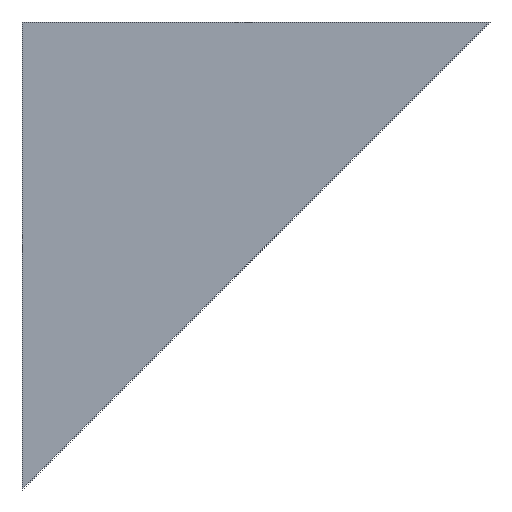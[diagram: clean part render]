
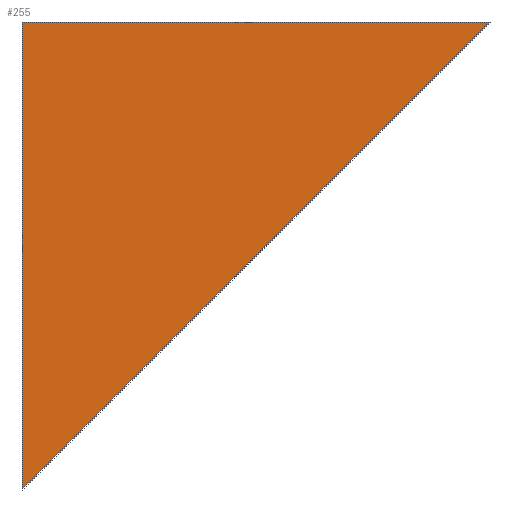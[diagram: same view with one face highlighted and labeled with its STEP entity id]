
A CAD part, left-side view. The second image highlights one B-rep face of the part: STEP entity #255.
In plain terms, the highlighted planar face has unit normal (-1, 0, 0).
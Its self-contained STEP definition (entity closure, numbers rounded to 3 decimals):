
#24 = VERTEX_POINT('',#25);
#25 = CARTESIAN_POINT('',(-2.,-7.5,145.));
#32 = PLANE('',#33);
#33 = AXIS2_PLACEMENT_3D('',#34,#35,#36);
#34 = CARTESIAN_POINT('',(-2.,-7.5,145.));
#35 = DIRECTION('',(0.,0.,1.));
#36 = DIRECTION('',(0.,1.,0.));
#44 = PLANE('',#45);
#45 = AXIS2_PLACEMENT_3D('',#46,#47,#48);
#46 = CARTESIAN_POINT('',(-2.,12.5,125.));
#47 = DIRECTION('',(0.,-0.707,-0.707));
#48 = DIRECTION('',(0.,-0.707,0.707));
#85 = VERTEX_POINT('',#86);
#86 = CARTESIAN_POINT('',(-2.,12.5,145.));
#100 = PLANE('',#101);
#101 = AXIS2_PLACEMENT_3D('',#102,#103,#104);
#102 = CARTESIAN_POINT('',(-2.,12.5,145.));
#103 = DIRECTION('',(0.,1.,0.));
#104 = DIRECTION('',(0.,0.,-1.));
#112 = EDGE_CURVE('',#85,#24,#113,.T.);
#113 = SURFACE_CURVE('',#114,(#118,#125),.PCURVE_S1.);
#114 = LINE('',#115,#116);
#115 = CARTESIAN_POINT('',(-2.,5.429,145.));
#116 = VECTOR('',#117,1.);
#117 = DIRECTION('',(0.,-1.,0.));
#118 = PCURVE('',#32,#119);
#119 = DEFINITIONAL_REPRESENTATION('',(#120),#124);
#120 = LINE('',#121,#122);
#121 = CARTESIAN_POINT('',(12.929,0.));
#122 = VECTOR('',#123,1.);
#123 = DIRECTION('',(-1.,0.));
#124 = ( GEOMETRIC_REPRESENTATION_CONTEXT(2) 
PARAMETRIC_REPRESENTATION_CONTEXT() REPRESENTATION_CONTEXT('2D SPACE',''
  ) );
#125 = PCURVE('',#126,#131);
#126 = PLANE('',#127);
#127 = AXIS2_PLACEMENT_3D('',#128,#129,#130);
#128 = CARTESIAN_POINT('',(-2.,5.429,137.929));
#129 = DIRECTION('',(-1.,0.,0.));
#130 = DIRECTION('',(0.,0.,-1.));
#131 = DEFINITIONAL_REPRESENTATION('',(#132),#136);
#132 = LINE('',#133,#134);
#133 = CARTESIAN_POINT('',(-7.071,-0.));
#134 = VECTOR('',#135,1.);
#135 = DIRECTION('',(0.,1.));
#136 = ( GEOMETRIC_REPRESENTATION_CONTEXT(2) 
PARAMETRIC_REPRESENTATION_CONTEXT() REPRESENTATION_CONTEXT('2D SPACE',''
  ) );
#166 = VERTEX_POINT('',#167);
#167 = CARTESIAN_POINT('',(-2.,12.5,125.));
#188 = EDGE_CURVE('',#85,#166,#189,.T.);
#189 = SURFACE_CURVE('',#190,(#194,#201),.PCURVE_S1.);
#190 = LINE('',#191,#192);
#191 = CARTESIAN_POINT('',(-2.,12.5,137.929));
#192 = VECTOR('',#193,1.);
#193 = DIRECTION('',(0.,0.,-1.));
#194 = PCURVE('',#100,#195);
#195 = DEFINITIONAL_REPRESENTATION('',(#196),#200);
#196 = LINE('',#197,#198);
#197 = CARTESIAN_POINT('',(7.071,0.));
#198 = VECTOR('',#199,1.);
#199 = DIRECTION('',(1.,0.));
#200 = ( GEOMETRIC_REPRESENTATION_CONTEXT(2) 
PARAMETRIC_REPRESENTATION_CONTEXT() REPRESENTATION_CONTEXT('2D SPACE',''
  ) );
#201 = PCURVE('',#126,#202);
#202 = DEFINITIONAL_REPRESENTATION('',(#203),#207);
#203 = LINE('',#204,#205);
#204 = CARTESIAN_POINT('',(0.,-7.071));
#205 = VECTOR('',#206,1.);
#206 = DIRECTION('',(1.,0.));
#207 = ( GEOMETRIC_REPRESENTATION_CONTEXT(2) 
PARAMETRIC_REPRESENTATION_CONTEXT() REPRESENTATION_CONTEXT('2D SPACE',''
  ) );
#235 = EDGE_CURVE('',#166,#24,#236,.T.);
#236 = SURFACE_CURVE('',#237,(#241,#248),.PCURVE_S1.);
#237 = LINE('',#238,#239);
#238 = CARTESIAN_POINT('',(-2.,12.5,125.));
#239 = VECTOR('',#240,1.);
#240 = DIRECTION('',(0.,-0.707,0.707));
#241 = PCURVE('',#44,#242);
#242 = DEFINITIONAL_REPRESENTATION('',(#243),#247);
#243 = LINE('',#244,#245);
#244 = CARTESIAN_POINT('',(0.,0.));
#245 = VECTOR('',#246,1.);
#246 = DIRECTION('',(1.,0.));
#247 = ( GEOMETRIC_REPRESENTATION_CONTEXT(2) 
PARAMETRIC_REPRESENTATION_CONTEXT() REPRESENTATION_CONTEXT('2D SPACE',''
  ) );
#248 = PCURVE('',#126,#249);
#249 = DEFINITIONAL_REPRESENTATION('',(#250),#254);
#250 = LINE('',#251,#252);
#251 = CARTESIAN_POINT('',(12.929,-7.071));
#252 = VECTOR('',#253,1.);
#253 = DIRECTION('',(-0.707,0.707));
#254 = ( GEOMETRIC_REPRESENTATION_CONTEXT(2) 
PARAMETRIC_REPRESENTATION_CONTEXT() REPRESENTATION_CONTEXT('2D SPACE',''
  ) );
#255 = ADVANCED_FACE('',(#256),#126,.T.);
#256 = FACE_BOUND('',#257,.T.);
#257 = EDGE_LOOP('',(#258,#259,#260));
#258 = ORIENTED_EDGE('',*,*,#112,.F.);
#259 = ORIENTED_EDGE('',*,*,#188,.T.);
#260 = ORIENTED_EDGE('',*,*,#235,.T.);
